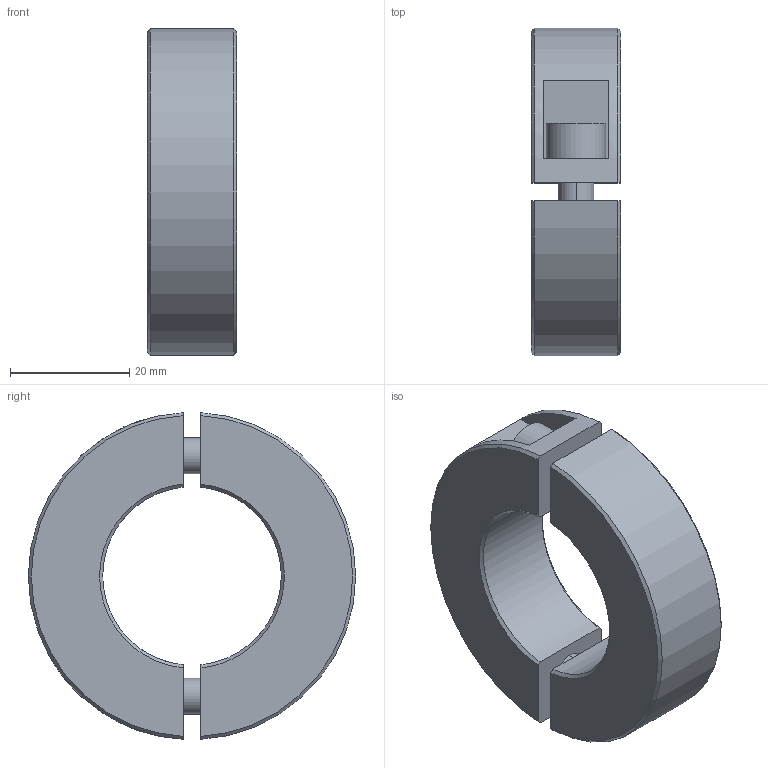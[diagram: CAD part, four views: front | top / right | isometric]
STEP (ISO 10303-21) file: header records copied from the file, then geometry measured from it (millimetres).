
FILE_DESCRIPTION (( 'STEP AP214' ), '1' );
FILE_NAME ('bague d''arret D30.STEP', '2011-05-19T11:05:15', ( '.' ), ( '' ), 'SwSTEP 2.0', 'SolidWorks 2010', '' );
FILE_SCHEMA (( 'AUTOMOTIVE_DESIGN' ));
Length unit declared in the file: millimetre
Products named in the file (1): bague d''arret D30
Bounding box: 15 x 55 x 54.92 mm (x, y, z)
Volume: 22369.7 mm3; surface area: 8992.3 mm2
Topology: 1 solids, 3 shells, 81 faces, 188 edges, 115 vertices
Faces by surface type: plane 41, bspline 21, cylinder 11, cone 8
Entity records: 3003 total; most frequent: CARTESIAN_POINT 1237, ORIENTED_EDGE 364, DIRECTION 334, EDGE_CURVE 182, AXIS2_PLACEMENT_3D 116, VERTEX_POINT 115, VECTOR 102, LINE 102
